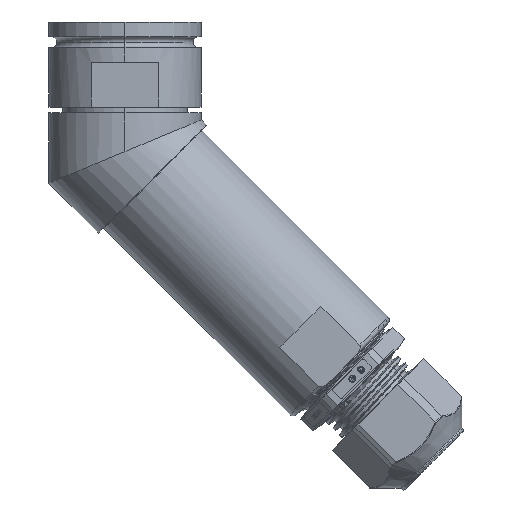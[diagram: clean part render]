
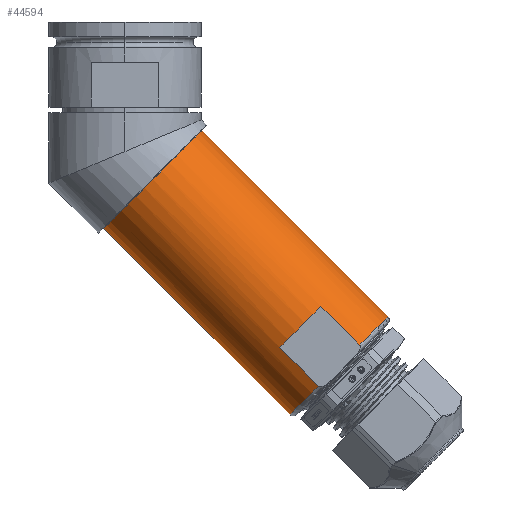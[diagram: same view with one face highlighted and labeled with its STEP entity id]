
A CAD part, left-side view. The second image highlights one B-rep face of the part: STEP entity #44594.
In plain terms, the highlighted cylindrical face has radius 14.77 mm (diameter 29.54 mm), a partial arc.
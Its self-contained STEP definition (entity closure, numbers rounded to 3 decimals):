
#1628 = CARTESIAN_POINT ( 'NONE',  ( 0., 4.504, -38.373 ) ) ;
#2066 = CIRCLE ( 'NONE', #55272, 14.77 ) ;
#5176 = DIRECTION ( 'NONE',  ( 0., -0.707, 0.707 ) ) ;
#6755 = DIRECTION ( 'NONE',  ( 0., -0.707, 0.707 ) ) ;
#7143 = VECTOR ( 'NONE', #14372, 1000. ) ;
#7747 = EDGE_CURVE ( 'NONE', #49222, #33094, #32792, .T. ) ;
#9299 = EDGE_CURVE ( 'NONE', #28158, #11546, #48778, .T. ) ;
#11546 = VERTEX_POINT ( 'NONE', #15317 ) ;
#11783 = ORIENTED_EDGE ( 'NONE', *, *, #7747, .T. ) ;
#11977 = CARTESIAN_POINT ( 'NONE',  ( 0., -5.94, -27.929 ) ) ;
#11994 = EDGE_CURVE ( 'NONE', #11546, #33094, #59441, .T. ) ;
#12673 = EDGE_CURVE ( 'NONE', #58647, #48885, #46107, .T. ) ;
#13773 = CARTESIAN_POINT ( 'NONE',  ( -13.399, -33.011, -63.791 ) ) ;
#14305 = EDGE_CURVE ( 'NONE', #28215, #58647, #58513, .T. ) ;
#14372 = DIRECTION ( 'NONE',  ( 0., 0.707, 0.707 ) ) ;
#15317 = CARTESIAN_POINT ( 'NONE',  ( 0., 4.504, -38.373 ) ) ;
#16079 = VECTOR ( 'NONE', #29913, 1000. ) ;
#16913 = DIRECTION ( 'NONE',  ( 0., -0.707, 0.707 ) ) ;
#19080 = AXIS2_PLACEMENT_3D ( 'NONE', #26397, #36247, #16913 ) ;
#19198 = DIRECTION ( 'NONE',  ( 0., -0.707, 0.707 ) ) ;
#19920 = DIRECTION ( 'NONE',  ( 0., 0.707, 0.707 ) ) ;
#20662 = EDGE_CURVE ( 'NONE', #28158, #48885, #2066, .T. ) ;
#22370 = CARTESIAN_POINT ( 'NONE',  ( -13.399, -33.011, -63.791 ) ) ;
#24100 = CARTESIAN_POINT ( 'NONE',  ( 0., -45.669, -67.658 ) ) ;
#24151 = ORIENTED_EDGE ( 'NONE', *, *, #54747, .T. ) ;
#26102 = CYLINDRICAL_SURFACE ( 'NONE', #55082, 14.77 ) ;
#26397 = CARTESIAN_POINT ( 'NONE',  ( 0., -5.94, -27.929 ) ) ;
#27357 = VECTOR ( 'NONE', #30275, 1000. ) ;
#28075 = CARTESIAN_POINT ( 'NONE',  ( -13.399, -41.273, -72.053 ) ) ;
#28158 = VERTEX_POINT ( 'NONE', #35591 ) ;
#28215 = VERTEX_POINT ( 'NONE', #58462 ) ;
#28455 = CARTESIAN_POINT ( 'NONE',  ( 0., -16.384, -17.485 ) ) ;
#29913 = DIRECTION ( 'NONE',  ( 0., 0.707, 0.707 ) ) ;
#30275 = DIRECTION ( 'NONE',  ( 0., -0.707, -0.707 ) ) ;
#31739 = CARTESIAN_POINT ( 'NONE',  ( 0., -37.407, -59.396 ) ) ;
#31863 = ORIENTED_EDGE ( 'NONE', *, *, #20662, .T. ) ;
#32118 = CARTESIAN_POINT ( 'NONE',  ( -13.399, -50.064, -63.263 ) ) ;
#32390 = ORIENTED_EDGE ( 'NONE', *, *, #39282, .T. ) ;
#32792 = LINE ( 'NONE', #28455, #7143 ) ;
#32961 = ORIENTED_EDGE ( 'NONE', *, *, #14305, .F. ) ;
#33094 = VERTEX_POINT ( 'NONE', #50636 ) ;
#33965 = ORIENTED_EDGE ( 'NONE', *, *, #9299, .F. ) ;
#35591 = CARTESIAN_POINT ( 'NONE',  ( 0., -35.224, -78.102 ) ) ;
#35948 = FACE_OUTER_BOUND ( 'NONE', #53645, .T. ) ;
#36247 = DIRECTION ( 'NONE',  ( 0., 0.707, 0.707 ) ) ;
#36268 = VERTEX_POINT ( 'NONE', #32118 ) ;
#36345 = CARTESIAN_POINT ( 'NONE',  ( 0., -56.113, -57.214 ) ) ;
#36588 = CIRCLE ( 'NONE', #42495, 14.77 ) ;
#36693 = DIRECTION ( 'NONE',  ( 0., -0.707, 0.707 ) ) ;
#36821 = AXIS2_PLACEMENT_3D ( 'NONE', #31739, #46891, #36693 ) ;
#39282 = EDGE_CURVE ( 'NONE', #28215, #36268, #54700, .T. ) ;
#39978 = DIRECTION ( 'NONE',  ( 0., 0.707, 0.707 ) ) ;
#40168 = CARTESIAN_POINT ( 'NONE',  ( -13.399, -41.802, -55.001 ) ) ;
#41464 = DIRECTION ( 'NONE',  ( 0., -0.707, -0.707 ) ) ;
#42495 = AXIS2_PLACEMENT_3D ( 'NONE', #48279, #19920, #5176 ) ;
#44594 = ADVANCED_FACE ( 'NONE', ( #35948 ), #26102, .T. ) ;
#46107 = LINE ( 'NONE', #13773, #55541 ) ;
#46891 = DIRECTION ( 'NONE',  ( 0., -0.707, -0.707 ) ) ;
#48279 = CARTESIAN_POINT ( 'NONE',  ( 0., -45.669, -67.658 ) ) ;
#48778 = LINE ( 'NONE', #1628, #16079 ) ;
#48885 = VERTEX_POINT ( 'NONE', #28075 ) ;
#49222 = VERTEX_POINT ( 'NONE', #36345 ) ;
#50636 = CARTESIAN_POINT ( 'NONE',  ( 0., -16.384, -17.485 ) ) ;
#52187 = ORIENTED_EDGE ( 'NONE', *, *, #11994, .F. ) ;
#52488 = DIRECTION ( 'NONE',  ( 0., 0.707, 0.707 ) ) ;
#53645 = EDGE_LOOP ( 'NONE', ( #33965, #31863, #55436, #32961, #32390, #24151, #11783, #52187 ) ) ;
#54700 = LINE ( 'NONE', #40168, #27357 ) ;
#54747 = EDGE_CURVE ( 'NONE', #36268, #49222, #36588, .T. ) ;
#55082 = AXIS2_PLACEMENT_3D ( 'NONE', #11977, #39978, #6755 ) ;
#55272 = AXIS2_PLACEMENT_3D ( 'NONE', #24100, #52488, #19198 ) ;
#55436 = ORIENTED_EDGE ( 'NONE', *, *, #12673, .F. ) ;
#55541 = VECTOR ( 'NONE', #41464, 1000. ) ;
#58462 = CARTESIAN_POINT ( 'NONE',  ( -13.399, -41.802, -55.001 ) ) ;
#58513 = CIRCLE ( 'NONE', #36821, 14.77 ) ;
#58647 = VERTEX_POINT ( 'NONE', #22370 ) ;
#59441 = CIRCLE ( 'NONE', #19080, 14.77 ) ;
